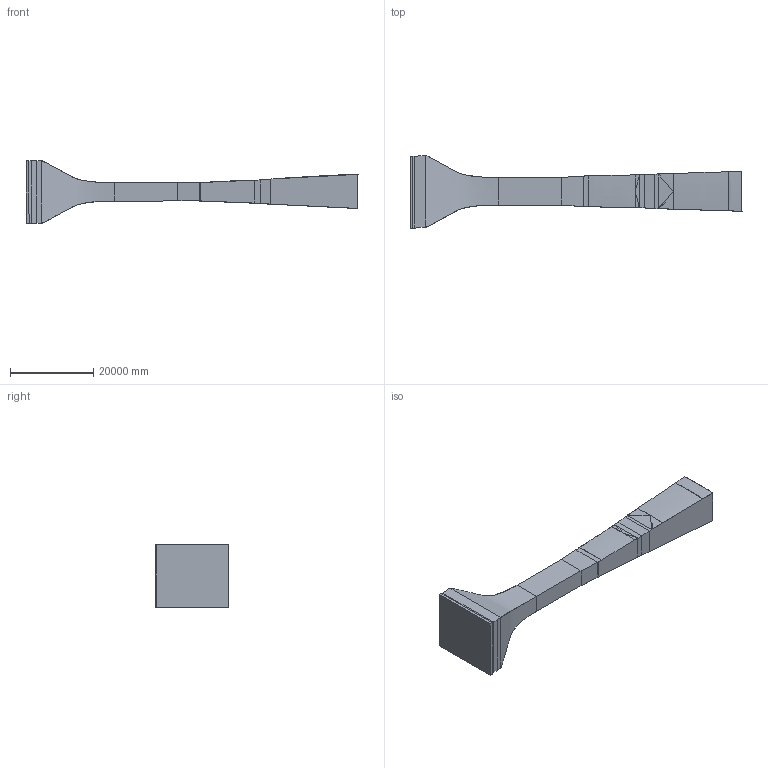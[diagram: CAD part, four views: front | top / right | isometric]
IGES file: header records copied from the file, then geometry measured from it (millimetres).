
Global section: file name: X:\prj6.0\JFM_2018\outgoing\geometry\2018 mast and sting rebuild\14x22 windtunnel\14x22_hi-speed_leg_2019_03_20-mm.igs; native system: NX V10.0; preprocessor: SIEMENS PLM Software NX 10.0; date: 20190320.144151; units: millimetre
Bounding box: 79862.31 x 17532.34 x 15158.16 mm (x, y, z)
Surface area: 2825476976 mm2 (no closed solid volume)
Topology: 0 solids, 0 shells, 62 faces, 733 edges, 729 vertices
Faces by surface type: bspline 62
